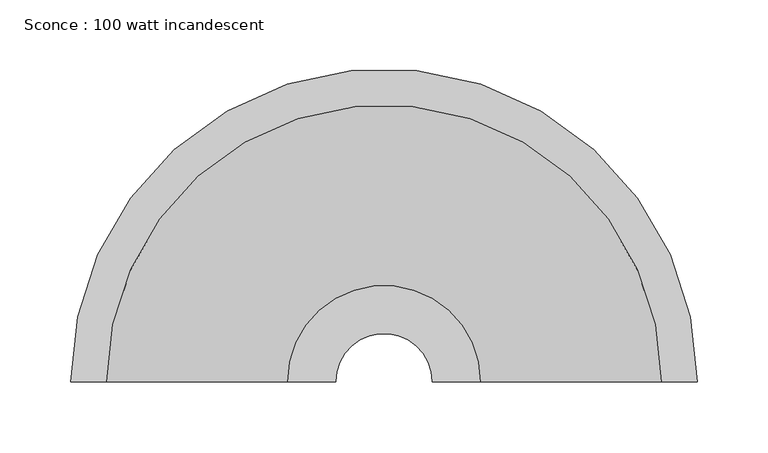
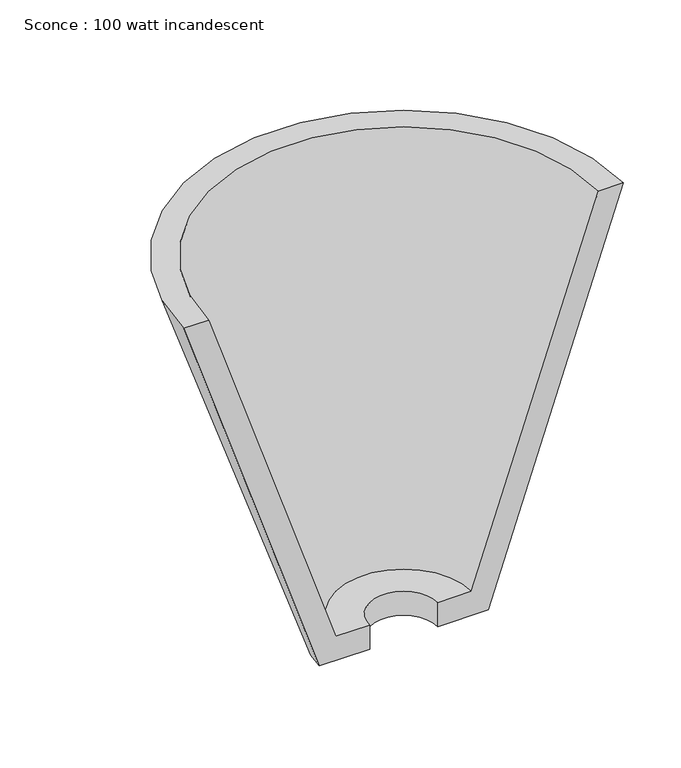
"""IFC4 building model written with IfcOpenShell, lengths in millimetres: light fixture geometry, Sconce : 100 watt incandescent."""

from ifc_helpers import new_model, si_unit, frame, origin, place, context, project, spatial, polyline, circle_curve, source, transform, mapped, element, save
from ifc_brep_helpers import plane_surface, revolved_surface, advanced_brep


def sconce_100_watt_incandescent_3f244261(model_context):
    return source(origin(), model_context, "Body", "AdvancedBrep", [
        advanced_brep(
        [(-221.2056669, 61.9125, 2133.6), (-85.0253975, 61.9125, 1727.2), (-34.2253975, 61.9125, 1727.2), (-34.2253975, 61.9125, 1752.6), (-68.1366644, 61.9125, 1752.6), (-195.8056669, 61.9125, 2133.6), (221.2056669, 61.9125, 2133.6), (195.8056669, 61.9125, 2133.6), (68.1366644, 61.9125, 1752.6), (34.2253975, 61.9125, 1752.6), (34.2253975, 61.9125, 1727.2), (85.0253975, 61.9125, 1727.2)],
        [
            (0, 1),
            (1, 2),
            (2, 3),
            (3, 4),
            (4, 5),
            (5, 0),
            (6, 7),
            (7, 8),
            (8, 9),
            (9, 10),
            (10, 11),
            (11, 6),
            (11, 1, circle_curve(frame((0.0, 61.9125, 1727.2), z_axis=(0.0, 0.0, 1.0), x_axis=(-1.0, 0.0, 0.0)), 85.0253975)),
            (0, 6, circle_curve(frame((0.0, 61.9125, 2133.6), z_axis=(0.0, 0.0, -1.0), x_axis=(-1.0, 0.0, 0.0)), 221.2056669)),
            (10, 2, circle_curve(frame((0.0, 61.9125, 1727.2), z_axis=(0.0, 0.0, 1.0), x_axis=(-1.0, 0.0, 0.0)), 34.2253975)),
            (9, 3, circle_curve(frame((0.0, 61.9125, 1752.6), z_axis=(0.0, 0.0, 1.0), x_axis=(-1.0, 0.0, 0.0)), 34.2253975)),
            (8, 4, circle_curve(frame((0.0, 61.9125, 1752.6), z_axis=(0.0, 0.0, 1.0), x_axis=(-1.0, 0.0, 0.0)), 68.1366644)),
            (7, 5, circle_curve(frame((0.0, 61.9125, 2133.6), z_axis=(0.0, 0.0, 1.0), x_axis=(-1.0, 0.0, 0.0)), 195.8056669)),
        ],
        [
            plane_surface(frame((0.0, 61.9125, 1967.174367), z_axis=(0.0, -1.0, 0.0), x_axis=(-1.0, 0.0, 0.0))),
            plane_surface(frame((0.0, 61.9125, 1967.174367), z_axis=(0.0, -1.0, 0.0), x_axis=(1.0, 0.0, 0.0))),
            revolved_surface(polyline([(-221.2056669, 61.9125, 2133.6), (-85.0253975, 61.9125, 1727.2)]), (0.0, 61.9125, 1967.174367), (0.0, 0.0, -1.0)),
            plane_surface(frame((0.0, 61.9125, 1727.2), z_axis=(0.0, 0.0, -1.0), x_axis=(-1.0, 0.0, 0.0))),
            revolved_surface(polyline([(-34.2253975, 61.9125, 1727.2), (-34.2253975, 61.9125, 1752.6)]), (0.0, 61.9125, 1967.174367), (0.0, 0.0, -1.0)),
            plane_surface(frame((0.0, 61.9125, 1752.6), z_axis=(0.0, 0.0, 1.0), x_axis=(-1.0, 0.0, 0.0))),
            revolved_surface(polyline([(-68.1366644, 61.9125, 1752.6), (-195.8056669, 61.9125, 2133.6)]), (0.0, 61.9125, 1967.174367), (0.0, 0.0, -1.0)),
            plane_surface(frame((0.0, 61.9125, 2133.6), z_axis=(0.0, 0.0, 1.0), x_axis=(-1.0, 0.0, 0.0))),
        ],
        [
            (0, [[1, 2, 3, 4, 5, 6]]),
            (1, [[7, 8, 9, 10, 11, 12]]),
            (2, [[13, -1, 14, -12]]),
            (3, [[15, -2, -13, -11]]),
            (4, [[16, -3, -15, -10]]),
            (5, [[17, -4, -16, -9]]),
            (6, [[18, -5, -17, -8]]),
            (7, [[-14, -6, -18, -7]]),
        ],
    ),
    ])


if __name__ == "__main__":
    model = new_model("IFC4")
    model_context = context("Model", 3, world=origin())
    ifc_project = project(units=[si_unit("LENGTHUNIT", "METRE", prefix="MILLI")], contexts=[model_context])
    site = spatial("IfcSite", under=ifc_project)
    building = spatial("IfcBuilding", under=site)
    placement = place(None, origin())
    sconce_100_watt_incandescent_shape = sconce_100_watt_incandescent_3f244261(model_context)
    element("IfcLightFixture", 1, ObjectType="Sconce : 100 watt incandescent", at=placement, inside=building, context=model_context, shape_type="MappedRepresentation", body=[
        mapped(sconce_100_watt_incandescent_shape, transform((0.0, 0.0, 0.0), x_axis=(1.0, 0.0, 0.0), y_axis=(0.0, 1.0, 0.0), z_axis=(0.0, 0.0, 1.0))),
    ])
    save(model, "model.ifc")
